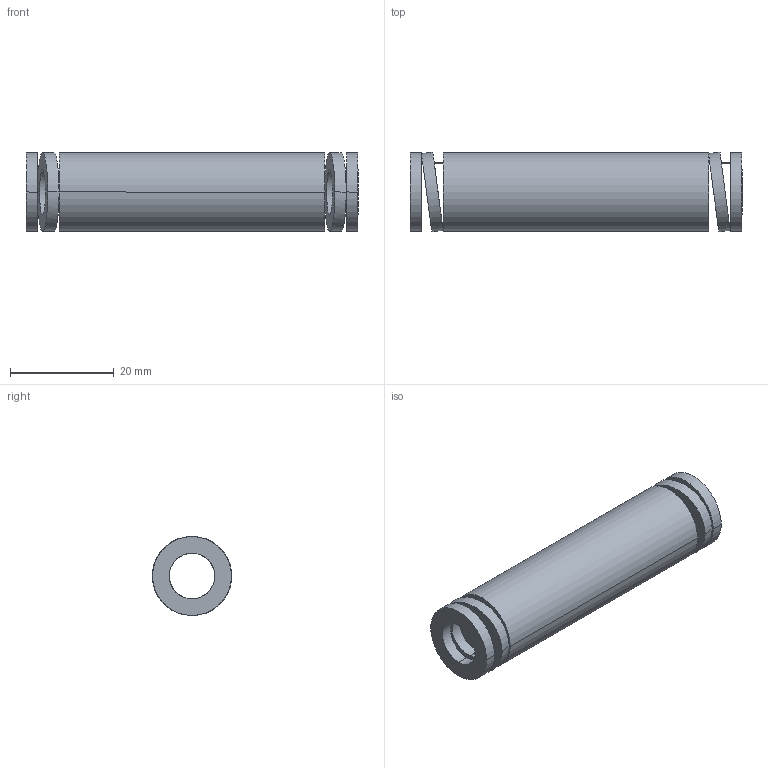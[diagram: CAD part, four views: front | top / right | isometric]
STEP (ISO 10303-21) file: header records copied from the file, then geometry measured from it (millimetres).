
FILE_DESCRIPTION(('CATIA V5 STEP Exchange'),'2;1');
FILE_NAME('C:\Users\Utente\Desktop\IO LAVORO\3D X SITO CF\X SITO\3D files 392B\392-B16-064.stp','2021-08-12T14:05:19+00:00',('none'),('none'),'CATIA Version 5 Release 20 GA (IN-10)','CATIA V5 STEP AP203','none');
FILE_SCHEMA(('CONFIG_CONTROL_DESIGN'));
Length unit declared in the file: millimetre
Products named in the file (1): 392-B16-064
Bounding box: 64 x 15.36 x 15.2 mm (x, y, z)
Volume: 7222.3 mm3; surface area: 5722.9 mm2
Topology: 1 solids, 1 shells, 38 faces, 92 edges, 64 vertices
Faces by surface type: cylinder 28, plane 10
Entity records: 1596 total; most frequent: CARTESIAN_POINT 709, ORIENTED_EDGE 184, DIRECTION 128, EDGE_CURVE 92, VERTEX_POINT 64, AXIS2_PLACEMENT_3D 63, EDGE_LOOP 56, B_SPLINE_CURVE_WITH_KNOTS 40
